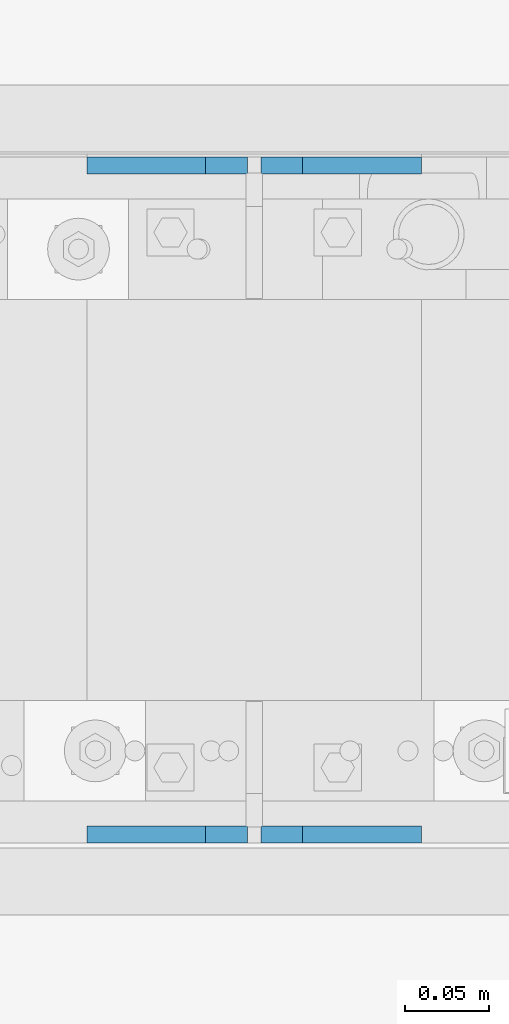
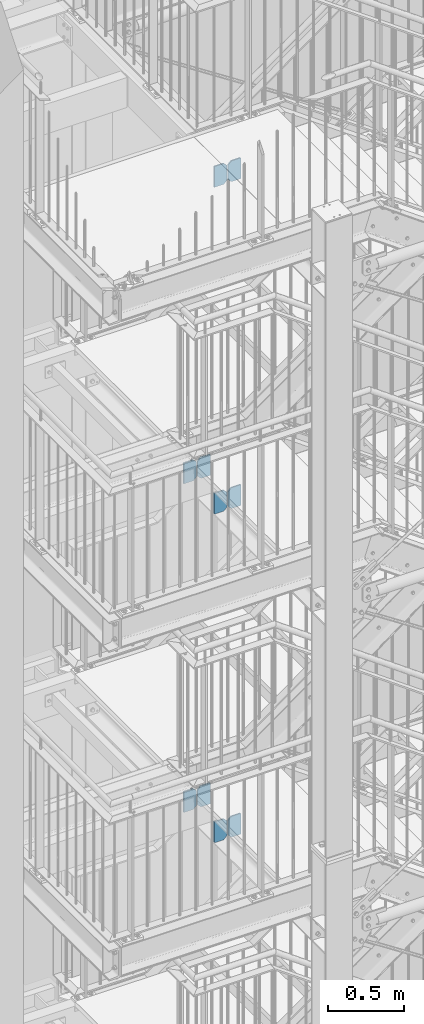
# One storey, part 164 of 831: 10 plates, 20 openings.
"""IFC2X3 building model written with IfcOpenShell, lengths in millimetres."""

from ifc_helpers import new_model, entity, si_unit, converted_unit, frame, origin, origin_with_axes, place, context, project, spatial, polyline, outline, extrude, material, layer, layer_set, element, save


model = new_model("IFC2X3")

# Units and contexts
model_context = context("Model", 3, precision=1e-09, world=origin_with_axes())
ifc_project = project(units=[si_unit("LENGTHUNIT", "METRE", prefix="MILLI"), si_unit("AREAUNIT", "SQUARE_METRE"), si_unit("VOLUMEUNIT", "CUBIC_METRE"), converted_unit("PLANEANGLEUNIT", "DEGREE", entity("IfcPlaneAngleMeasure", 0.01745329), si_unit("PLANEANGLEUNIT", "RADIAN"), dimensions=[0, 0, 0, 0, 0, 0, 0])], contexts=[model_context])

# Site, building, storey
site_placement = place(None, origin_with_axes())
site = spatial("IfcSite", under=ifc_project, at=site_placement, Name="Site", CompositionType="ELEMENT")
building_placement = place(site_placement, origin_with_axes())
building = spatial("IfcBuilding", under=site, at=building_placement, Name="Struktur 1", CompositionType="ELEMENT")
storey_placement = place(building_placement, origin_with_axes())
storey = spatial("IfcBuildingStorey", under=building, at=storey_placement, Name="Default Storey", CompositionType="ELEMENT", Elevation=0.0)

# Plate, openings
ifc_material = material(Name="S235JR")
ifc_layer = layer(ifc_material, 10.0)
ifc_layer_set = layer_set([ifc_layer], Name="S235JR")
plate_1_placement = place(None, frame((4852.713402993, 5736.736971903, 12160.5), z_axis=(0.0, 1.0, 0.0), x_axis=(-1.0, 0.0, 0.0)))
plate_1 = element("IfcPlate", 1, at=plate_1_placement, inside=storey, material=ifc_layer_set, Name="Stiffener#1", ObjectType="Stiffener#1", context=model_context, shape_type="SweptSolid", body=[
    extrude(outline(polyline([(0.0, 0.0), (96.0, 0.0), (96.0, 167.0), (0.0, 167.0), (0.0, 0.0)])), origin_with_axes(), (0.0, 0.0, 1.0), 10.0),
])
opening_1_placement = place(plate_1_placement, frame((0.0, 0.0, -0.01), z_axis=(0.0, 0.0, 1.0), x_axis=(1.0, 0.0, 0.0)))
element("IfcOpeningElement", 2, at=opening_1_placement, cuts=plate_1, ObjectType="Opening", context=model_context, shape_type="SweptSolid", body=[
    extrude(outline(polyline([(0.0, 167.0), (0.0, 142.0), (25.0, 167.0), (0.0, 167.0)])), origin(), (0.0, 0.0, 1.0), 10.02),
])
opening_2_placement = place(plate_1_placement, frame((0.0, 0.0, -0.01), z_axis=(0.0, 0.0, 1.0), x_axis=(1.0, 0.0, 0.0)))
element("IfcOpeningElement", 3, at=opening_2_placement, cuts=plate_1, ObjectType="Opening", context=model_context, shape_type="SweptSolid", body=[
    extrude(outline(polyline([(0.0, 0.0), (25.0, 0.0), (0.0, 25.0), (0.0, 0.0)])), origin(), (0.0, 0.0, 1.0), 10.02),
])

plate_2_placement = place(None, frame((4956.713402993, 5736.736971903, 12160.5), z_axis=(0.0, 1.0, 0.0), x_axis=(-1.0, 0.0, 0.0)))
plate_2 = element("IfcPlate", 4, at=plate_2_placement, inside=storey, material=ifc_layer_set, Name="Stiffener#0", ObjectType="Stiffener#0", context=model_context, shape_type="SweptSolid", body=[
    extrude(outline(polyline([(0.0, 0.0), (96.0, 0.0), (96.0, 167.0), (0.0, 167.0), (0.0, 0.0)])), origin_with_axes(), (0.0, 0.0, 1.0), 10.0),
])
opening_3_placement = place(plate_2_placement, frame((0.0, 0.0, -0.01), z_axis=(0.0, 0.0, 1.0), x_axis=(1.0, 0.0, 0.0)))
element("IfcOpeningElement", 5, at=opening_3_placement, cuts=plate_2, ObjectType="Opening", context=model_context, shape_type="SweptSolid", body=[
    extrude(outline(polyline([(96.0, 167.0), (71.0, 167.0), (96.0, 142.0), (96.0, 167.0)])), origin(), (0.0, 0.0, 1.0), 10.02),
])
opening_4_placement = place(plate_2_placement, frame((0.0, 0.0, -0.01), z_axis=(0.0, 0.0, 1.0), x_axis=(1.0, 0.0, 0.0)))
element("IfcOpeningElement", 6, at=opening_4_placement, cuts=plate_2, ObjectType="Opening", context=model_context, shape_type="SweptSolid", body=[
    extrude(outline(polyline([(96.0, 0.0), (96.0, 25.0), (71.0, 0.0), (96.0, 0.0)])), origin(), (0.0, 0.0, 1.0), 10.02),
])

plate_3_placement = place(None, frame((4852.713402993, 6136.736971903, 12160.5), z_axis=(0.0, 1.0, 0.0), x_axis=(-1.0, 0.0, 0.0)))
plate_3 = element("IfcPlate", 7, at=plate_3_placement, inside=storey, material=ifc_layer_set, Name="Stiffener#1", ObjectType="Stiffener#1", context=model_context, shape_type="SweptSolid", body=[
    extrude(outline(polyline([(0.0, 0.0), (96.0, 0.0), (96.0, 167.0), (0.0, 167.0), (0.0, 0.0)])), origin_with_axes(), (0.0, 0.0, 1.0), 10.0),
])
opening_5_placement = place(plate_3_placement, frame((0.0, 0.0, -0.01), z_axis=(0.0, 0.0, 1.0), x_axis=(1.0, 0.0, 0.0)))
element("IfcOpeningElement", 8, at=opening_5_placement, cuts=plate_3, ObjectType="Opening", context=model_context, shape_type="SweptSolid", body=[
    extrude(outline(polyline([(0.0, 167.0), (0.0, 142.0), (25.0, 167.0), (0.0, 167.0)])), origin(), (0.0, 0.0, 1.0), 10.02),
])
opening_6_placement = place(plate_3_placement, frame((0.0, 0.0, -0.01), z_axis=(0.0, 0.0, 1.0), x_axis=(1.0, 0.0, 0.0)))
element("IfcOpeningElement", 9, at=opening_6_placement, cuts=plate_3, ObjectType="Opening", context=model_context, shape_type="SweptSolid", body=[
    extrude(outline(polyline([(0.0, 0.0), (25.0, 0.0), (0.0, 25.0), (0.0, 0.0)])), origin(), (0.0, 0.0, 1.0), 10.02),
])

plate_4_placement = place(None, frame((4956.713402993, 6136.736971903, 12160.5), z_axis=(0.0, 1.0, 0.0), x_axis=(-1.0, 0.0, 0.0)))
plate_4 = element("IfcPlate", 10, at=plate_4_placement, inside=storey, material=ifc_layer_set, Name="Stiffener#0", ObjectType="Stiffener#0", context=model_context, shape_type="SweptSolid", body=[
    extrude(outline(polyline([(0.0, 0.0), (96.0, 0.0), (96.0, 167.0), (0.0, 167.0), (0.0, 0.0)])), origin_with_axes(), (0.0, 0.0, 1.0), 10.0),
])
opening_7_placement = place(plate_4_placement, frame((0.0, 0.0, -0.01), z_axis=(0.0, 0.0, 1.0), x_axis=(1.0, 0.0, 0.0)))
element("IfcOpeningElement", 11, at=opening_7_placement, cuts=plate_4, ObjectType="Opening", context=model_context, shape_type="SweptSolid", body=[
    extrude(outline(polyline([(96.0, 167.0), (71.0, 167.0), (96.0, 142.0), (96.0, 167.0)])), origin(), (0.0, 0.0, 1.0), 10.02),
])
opening_8_placement = place(plate_4_placement, frame((0.0, 0.0, -0.01), z_axis=(0.0, 0.0, 1.0), x_axis=(1.0, 0.0, 0.0)))
element("IfcOpeningElement", 12, at=opening_8_placement, cuts=plate_4, ObjectType="Opening", context=model_context, shape_type="SweptSolid", body=[
    extrude(outline(polyline([(96.0, 0.0), (96.0, 25.0), (71.0, 0.0), (96.0, 0.0)])), origin(), (0.0, 0.0, 1.0), 10.02),
])

plate_5_placement = place(None, frame((4852.713402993, 5736.736971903, 14795.5), z_axis=(0.0, 1.0, 0.0), x_axis=(-1.0, 0.0, 0.0)))
plate_5 = element("IfcPlate", 13, at=plate_5_placement, inside=storey, material=ifc_layer_set, Name="Stiffener#1", ObjectType="Stiffener#1", context=model_context, shape_type="SweptSolid", body=[
    extrude(outline(polyline([(0.0, 0.0), (96.0, 0.0), (96.0, 167.0), (0.0, 167.0), (0.0, 0.0)])), origin_with_axes(), (0.0, 0.0, 1.0), 10.0),
])
opening_9_placement = place(plate_5_placement, frame((0.0, 0.0, -0.01), z_axis=(0.0, 0.0, 1.0), x_axis=(1.0, 0.0, 0.0)))
element("IfcOpeningElement", 14, at=opening_9_placement, cuts=plate_5, ObjectType="Opening", context=model_context, shape_type="SweptSolid", body=[
    extrude(outline(polyline([(0.0, 167.0), (0.0, 142.0), (25.0, 167.0), (0.0, 167.0)])), origin(), (0.0, 0.0, 1.0), 10.02),
])
opening_10_placement = place(plate_5_placement, frame((0.0, 0.0, -0.01), z_axis=(0.0, 0.0, 1.0), x_axis=(1.0, 0.0, 0.0)))
element("IfcOpeningElement", 15, at=opening_10_placement, cuts=plate_5, ObjectType="Opening", context=model_context, shape_type="SweptSolid", body=[
    extrude(outline(polyline([(0.0, 0.0), (25.0, 0.0), (0.0, 25.0), (0.0, 0.0)])), origin(), (0.0, 0.0, 1.0), 10.02),
])

plate_6_placement = place(None, frame((4956.713402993, 5736.736971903, 14795.5), z_axis=(0.0, 1.0, 0.0), x_axis=(-1.0, 0.0, 0.0)))
plate_6 = element("IfcPlate", 16, at=plate_6_placement, inside=storey, material=ifc_layer_set, Name="Stiffener#0", ObjectType="Stiffener#0", context=model_context, shape_type="SweptSolid", body=[
    extrude(outline(polyline([(0.0, 0.0), (96.0, 0.0), (96.0, 167.0), (0.0, 167.0), (0.0, 0.0)])), origin_with_axes(), (0.0, 0.0, 1.0), 10.0),
])
opening_11_placement = place(plate_6_placement, frame((0.0, 0.0, -0.01), z_axis=(0.0, 0.0, 1.0), x_axis=(1.0, 0.0, 0.0)))
element("IfcOpeningElement", 17, at=opening_11_placement, cuts=plate_6, ObjectType="Opening", context=model_context, shape_type="SweptSolid", body=[
    extrude(outline(polyline([(96.0, 167.0), (71.0, 167.0), (96.0, 142.0), (96.0, 167.0)])), origin(), (0.0, 0.0, 1.0), 10.02),
])
opening_12_placement = place(plate_6_placement, frame((0.0, 0.0, -0.01), z_axis=(0.0, 0.0, 1.0), x_axis=(1.0, 0.0, 0.0)))
element("IfcOpeningElement", 18, at=opening_12_placement, cuts=plate_6, ObjectType="Opening", context=model_context, shape_type="SweptSolid", body=[
    extrude(outline(polyline([(96.0, 0.0), (96.0, 25.0), (71.0, 0.0), (96.0, 0.0)])), origin(), (0.0, 0.0, 1.0), 10.02),
])

plate_7_placement = place(None, frame((4852.713402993, 6136.736971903, 14795.5), z_axis=(0.0, 1.0, 0.0), x_axis=(-1.0, 0.0, 0.0)))
plate_7 = element("IfcPlate", 19, at=plate_7_placement, inside=storey, material=ifc_layer_set, Name="Stiffener#1", ObjectType="Stiffener#1", context=model_context, shape_type="SweptSolid", body=[
    extrude(outline(polyline([(0.0, 0.0), (96.0, 0.0), (96.0, 167.0), (0.0, 167.0), (0.0, 0.0)])), origin_with_axes(), (0.0, 0.0, 1.0), 10.0),
])
opening_13_placement = place(plate_7_placement, frame((0.0, 0.0, -0.01), z_axis=(0.0, 0.0, 1.0), x_axis=(1.0, 0.0, 0.0)))
element("IfcOpeningElement", 20, at=opening_13_placement, cuts=plate_7, ObjectType="Opening", context=model_context, shape_type="SweptSolid", body=[
    extrude(outline(polyline([(0.0, 167.0), (0.0, 142.0), (25.0, 167.0), (0.0, 167.0)])), origin(), (0.0, 0.0, 1.0), 10.02),
])
opening_14_placement = place(plate_7_placement, frame((0.0, 0.0, -0.01), z_axis=(0.0, 0.0, 1.0), x_axis=(1.0, 0.0, 0.0)))
element("IfcOpeningElement", 21, at=opening_14_placement, cuts=plate_7, ObjectType="Opening", context=model_context, shape_type="SweptSolid", body=[
    extrude(outline(polyline([(0.0, 0.0), (25.0, 0.0), (0.0, 25.0), (0.0, 0.0)])), origin(), (0.0, 0.0, 1.0), 10.02),
])

plate_8_placement = place(None, frame((4956.713402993, 6136.736971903, 14795.5), z_axis=(0.0, 1.0, 0.0), x_axis=(-1.0, 0.0, 0.0)))
plate_8 = element("IfcPlate", 22, at=plate_8_placement, inside=storey, material=ifc_layer_set, Name="Stiffener#0", ObjectType="Stiffener#0", context=model_context, shape_type="SweptSolid", body=[
    extrude(outline(polyline([(0.0, 0.0), (96.0, 0.0), (96.0, 167.0), (0.0, 167.0), (0.0, 0.0)])), origin_with_axes(), (0.0, 0.0, 1.0), 10.0),
])
opening_15_placement = place(plate_8_placement, frame((0.0, 0.0, -0.01), z_axis=(0.0, 0.0, 1.0), x_axis=(1.0, 0.0, 0.0)))
element("IfcOpeningElement", 23, at=opening_15_placement, cuts=plate_8, ObjectType="Opening", context=model_context, shape_type="SweptSolid", body=[
    extrude(outline(polyline([(96.0, 167.0), (71.0, 167.0), (96.0, 142.0), (96.0, 167.0)])), origin(), (0.0, 0.0, 1.0), 10.02),
])
opening_16_placement = place(plate_8_placement, frame((0.0, 0.0, -0.01), z_axis=(0.0, 0.0, 1.0), x_axis=(1.0, 0.0, 0.0)))
element("IfcOpeningElement", 24, at=opening_16_placement, cuts=plate_8, ObjectType="Opening", context=model_context, shape_type="SweptSolid", body=[
    extrude(outline(polyline([(96.0, 0.0), (96.0, 25.0), (71.0, 0.0), (96.0, 0.0)])), origin(), (0.0, 0.0, 1.0), 10.02),
])

plate_9_placement = place(None, frame((4852.713402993, 5736.736971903, 17415.499999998), z_axis=(0.0, 1.0, 0.0), x_axis=(-1.0, 0.0, 0.0)))
plate_9 = element("IfcPlate", 25, at=plate_9_placement, inside=storey, material=ifc_layer_set, Name="Stiffener#1", ObjectType="Stiffener#1", context=model_context, shape_type="SweptSolid", body=[
    extrude(outline(polyline([(0.0, 0.0), (96.0, 0.0), (96.0, 167.0), (0.0, 167.0), (0.0, 0.0)])), origin_with_axes(), (0.0, 0.0, 1.0), 10.0),
])
opening_17_placement = place(plate_9_placement, frame((0.0, 0.0, -0.01), z_axis=(0.0, 0.0, 1.0), x_axis=(1.0, 0.0, 0.0)))
element("IfcOpeningElement", 26, at=opening_17_placement, cuts=plate_9, ObjectType="Opening", context=model_context, shape_type="SweptSolid", body=[
    extrude(outline(polyline([(0.0, 167.0), (0.0, 142.0), (25.0, 167.0), (0.0, 167.0)])), origin(), (0.0, 0.0, 1.0), 10.02),
])
opening_18_placement = place(plate_9_placement, frame((0.0, 0.0, -0.01), z_axis=(0.0, 0.0, 1.0), x_axis=(1.0, 0.0, 0.0)))
element("IfcOpeningElement", 27, at=opening_18_placement, cuts=plate_9, ObjectType="Opening", context=model_context, shape_type="SweptSolid", body=[
    extrude(outline(polyline([(0.0, 0.0), (25.0, 0.0), (0.0, 25.0), (0.0, 0.0)])), origin(), (0.0, 0.0, 1.0), 10.02),
])

plate_10_placement = place(None, frame((4956.713402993, 5736.736971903, 17415.499999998), z_axis=(0.0, 1.0, 0.0), x_axis=(-1.0, 0.0, 0.0)))
plate_10 = element("IfcPlate", 28, at=plate_10_placement, inside=storey, material=ifc_layer_set, Name="Stiffener#0", ObjectType="Stiffener#0", context=model_context, shape_type="SweptSolid", body=[
    extrude(outline(polyline([(0.0, 0.0), (96.0, 0.0), (96.0, 167.0), (0.0, 167.0), (0.0, 0.0)])), origin_with_axes(), (0.0, 0.0, 1.0), 10.0),
])
opening_19_placement = place(plate_10_placement, frame((0.0, 0.0, -0.01), z_axis=(0.0, 0.0, 1.0), x_axis=(1.0, 0.0, 0.0)))
element("IfcOpeningElement", 29, at=opening_19_placement, cuts=plate_10, ObjectType="Opening", context=model_context, shape_type="SweptSolid", body=[
    extrude(outline(polyline([(96.0, 167.0), (71.0, 167.0), (96.0, 142.0), (96.0, 167.0)])), origin(), (0.0, 0.0, 1.0), 10.02),
])
opening_20_placement = place(plate_10_placement, frame((0.0, 0.0, -0.01), z_axis=(0.0, 0.0, 1.0), x_axis=(1.0, 0.0, 0.0)))
element("IfcOpeningElement", 30, at=opening_20_placement, cuts=plate_10, ObjectType="Opening", context=model_context, shape_type="SweptSolid", body=[
    extrude(outline(polyline([(96.0, 0.0), (96.0, 25.0), (71.0, 0.0), (96.0, 0.0)])), origin(), (0.0, 0.0, 1.0), 10.02),
])

save(model, "model.ifc")
